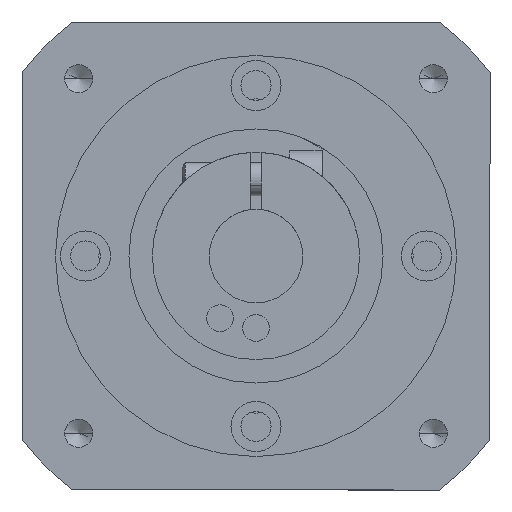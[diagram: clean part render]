
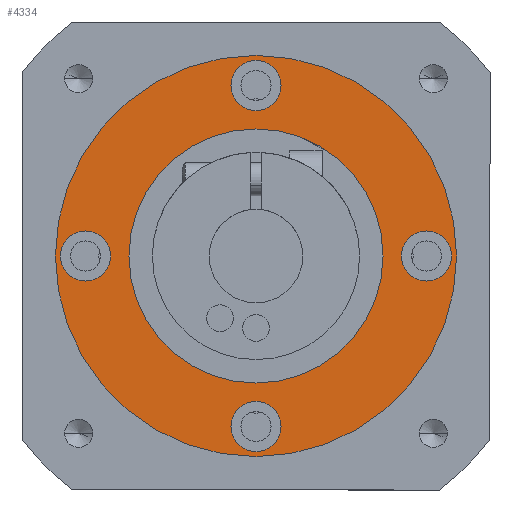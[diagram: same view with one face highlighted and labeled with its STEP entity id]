
A CAD part, front view. The second image highlights one B-rep face of the part: STEP entity #4334.
In plain terms, the highlighted planar face has unit normal (0, -1, 0) as drawn and (0, 0, -1) by its records, which use the part's own axes.
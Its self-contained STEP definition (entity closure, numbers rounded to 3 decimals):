
#34 = EDGE_LOOP ( 'NONE', ( #7748, #3338 ) ) ;
#52 = FACE_BOUND ( 'NONE', #3673, .T. ) ;
#55 = AXIS2_PLACEMENT_3D ( 'NONE', #1507, #6642, #2258 ) ;
#56 = CARTESIAN_POINT ( 'NONE',  ( -25.5, 0., -17.5 ) ) ;
#64 = EDGE_LOOP ( 'NONE', ( #5321, #6367 ) ) ;
#161 = DIRECTION ( 'NONE',  ( 0., 0., -1. ) ) ;
#277 = FACE_BOUND ( 'NONE', #34, .T. ) ;
#355 = DIRECTION ( 'NONE',  ( -1., 0., 0. ) ) ;
#532 = VERTEX_POINT ( 'NONE', #8926 ) ;
#621 = DIRECTION ( 'NONE',  ( 0., 0., -1. ) ) ;
#796 = DIRECTION ( 'NONE',  ( -1., 0., 0. ) ) ;
#852 = CIRCLE ( 'NONE', #7434, 30. ) ;
#923 = DIRECTION ( 'NONE',  ( 0., 0., 1. ) ) ;
#952 = ORIENTED_EDGE ( 'NONE', *, *, #9215, .F. ) ;
#1064 = VERTEX_POINT ( 'NONE', #7341 ) ;
#1079 = EDGE_CURVE ( 'NONE', #1764, #5633, #7146, .T. ) ;
#1142 = DIRECTION ( 'NONE',  ( 0., 0., -1. ) ) ;
#1221 = EDGE_LOOP ( 'NONE', ( #5330, #952 ) ) ;
#1262 = EDGE_CURVE ( 'NONE', #8411, #7971, #4079, .T. ) ;
#1378 = VERTEX_POINT ( 'NONE', #8622 ) ;
#1406 = CIRCLE ( 'NONE', #4260, 19. ) ;
#1507 = CARTESIAN_POINT ( 'NONE',  ( 0., 0., -17.5 ) ) ;
#1545 = PLANE ( 'NONE',  #5762 ) ;
#1602 = CARTESIAN_POINT ( 'NONE',  ( -19., 0., -17.5 ) ) ;
#1603 = AXIS2_PLACEMENT_3D ( 'NONE', #1640, #6765, #2397 ) ;
#1629 = EDGE_CURVE ( 'NONE', #1064, #532, #4974, .T. ) ;
#1640 = CARTESIAN_POINT ( 'NONE',  ( 25.5, 0., -17.5 ) ) ;
#1727 = DIRECTION ( 'NONE',  ( 0., 0., -1. ) ) ;
#1728 = ORIENTED_EDGE ( 'NONE', *, *, #1079, .T. ) ;
#1764 = VERTEX_POINT ( 'NONE', #6365 ) ;
#1770 = ORIENTED_EDGE ( 'NONE', *, *, #1262, .F. ) ;
#2027 = FACE_BOUND ( 'NONE', #4783, .T. ) ;
#2058 = CIRCLE ( 'NONE', #55, 30. ) ;
#2072 = CARTESIAN_POINT ( 'NONE',  ( 0., 0., -17.5 ) ) ;
#2158 = EDGE_CURVE ( 'NONE', #5633, #1764, #1406, .T. ) ;
#2258 = DIRECTION ( 'NONE',  ( 1., 0., 0. ) ) ;
#2289 = AXIS2_PLACEMENT_3D ( 'NONE', #4596, #161, #5297 ) ;
#2397 = DIRECTION ( 'NONE',  ( -1., 0., 0. ) ) ;
#2500 = EDGE_CURVE ( 'NONE', #6069, #3545, #4305, .T. ) ;
#2644 = AXIS2_PLACEMENT_3D ( 'NONE', #9142, #4780, #355 ) ;
#2653 = CIRCLE ( 'NONE', #2289, 3.75 ) ;
#2822 = DIRECTION ( 'NONE',  ( 1., 0., 0. ) ) ;
#2831 = DIRECTION ( 'NONE',  ( 0., 0., 1. ) ) ;
#2987 = CIRCLE ( 'NONE', #1603, 3.75 ) ;
#3154 = CIRCLE ( 'NONE', #6066, 3.75 ) ;
#3338 = ORIENTED_EDGE ( 'NONE', *, *, #2500, .F. ) ;
#3545 = VERTEX_POINT ( 'NONE', #7576 ) ;
#3673 = EDGE_LOOP ( 'NONE', ( #1728, #7788 ) ) ;
#3717 = AXIS2_PLACEMENT_3D ( 'NONE', #6118, #1727, #6854 ) ;
#3793 = DIRECTION ( 'NONE',  ( -1., 0., 0. ) ) ;
#4000 = FACE_BOUND ( 'NONE', #8388, .T. ) ;
#4079 = CIRCLE ( 'NONE', #4318, 3.75 ) ;
#4260 = AXIS2_PLACEMENT_3D ( 'NONE', #2072, #7178, #2822 ) ;
#4269 = DIRECTION ( 'NONE',  ( 0., 0., -1. ) ) ;
#4305 = CIRCLE ( 'NONE', #9433, 3.75 ) ;
#4318 = AXIS2_PLACEMENT_3D ( 'NONE', #5543, #1142, #6289 ) ;
#4334 = ADVANCED_FACE ( 'NONE', ( #277, #2027, #5918, #4000, #52, #7623 ), #1545, .T. ) ;
#4373 = CIRCLE ( 'NONE', #3717, 3.75 ) ;
#4586 = CARTESIAN_POINT ( 'NONE',  ( -3.75, 25.5, -17.5 ) ) ;
#4596 = CARTESIAN_POINT ( 'NONE',  ( 0., 25.5, -17.5 ) ) ;
#4607 = EDGE_CURVE ( 'NONE', #1378, #8631, #3154, .T. ) ;
#4780 = DIRECTION ( 'NONE',  ( 0., 0., -1. ) ) ;
#4783 = EDGE_LOOP ( 'NONE', ( #9066, #8276 ) ) ;
#4970 = AXIS2_PLACEMENT_3D ( 'NONE', #5324, #923, #6072 ) ;
#4974 = CIRCLE ( 'NONE', #2644, 3.75 ) ;
#5028 = CARTESIAN_POINT ( 'NONE',  ( 0., -25.5, -17.5 ) ) ;
#5198 = DIRECTION ( 'NONE',  ( 0., 0., -1. ) ) ;
#5297 = DIRECTION ( 'NONE',  ( -1., 0., 0. ) ) ;
#5321 = ORIENTED_EDGE ( 'NONE', *, *, #1629, .F. ) ;
#5324 = CARTESIAN_POINT ( 'NONE',  ( 0., 0., -17.5 ) ) ;
#5330 = ORIENTED_EDGE ( 'NONE', *, *, #7335, .F. ) ;
#5363 = CIRCLE ( 'NONE', #7058, 3.75 ) ;
#5448 = CARTESIAN_POINT ( 'NONE',  ( 3.75, 25.5, -17.5 ) ) ;
#5543 = CARTESIAN_POINT ( 'NONE',  ( 0., 25.5, -17.5 ) ) ;
#5633 = VERTEX_POINT ( 'NONE', #1602 ) ;
#5754 = DIRECTION ( 'NONE',  ( -1., 0., 0. ) ) ;
#5762 = AXIS2_PLACEMENT_3D ( 'NONE', #7377, #8143, #3793 ) ;
#5918 = FACE_BOUND ( 'NONE', #64, .T. ) ;
#6066 = AXIS2_PLACEMENT_3D ( 'NONE', #5028, #621, #5754 ) ;
#6069 = VERTEX_POINT ( 'NONE', #6248 ) ;
#6070 = VERTEX_POINT ( 'NONE', #6991 ) ;
#6072 = DIRECTION ( 'NONE',  ( 1., 0., 0. ) ) ;
#6118 = CARTESIAN_POINT ( 'NONE',  ( 0., -25.5, -17.5 ) ) ;
#6235 = CARTESIAN_POINT ( 'NONE',  ( -3.75, -25.5, -17.5 ) ) ;
#6248 = CARTESIAN_POINT ( 'NONE',  ( -21.75, 0., -17.5 ) ) ;
#6289 = DIRECTION ( 'NONE',  ( -1., 0., 0. ) ) ;
#6365 = CARTESIAN_POINT ( 'NONE',  ( 19., 0., -17.5 ) ) ;
#6367 = ORIENTED_EDGE ( 'NONE', *, *, #8414, .F. ) ;
#6526 = EDGE_CURVE ( 'NONE', #7971, #8411, #2653, .T. ) ;
#6642 = DIRECTION ( 'NONE',  ( 0., 0., 1. ) ) ;
#6765 = DIRECTION ( 'NONE',  ( 0., 0., -1. ) ) ;
#6854 = DIRECTION ( 'NONE',  ( -1., 0., 0. ) ) ;
#6991 = CARTESIAN_POINT ( 'NONE',  ( -30., 0., -17.5 ) ) ;
#7058 = AXIS2_PLACEMENT_3D ( 'NONE', #56, #5198, #796 ) ;
#7146 = CIRCLE ( 'NONE', #4970, 19. ) ;
#7178 = DIRECTION ( 'NONE',  ( 0., 0., 1. ) ) ;
#7196 = CARTESIAN_POINT ( 'NONE',  ( 0., 0., -17.5 ) ) ;
#7335 = EDGE_CURVE ( 'NONE', #9316, #6070, #2058, .T. ) ;
#7341 = CARTESIAN_POINT ( 'NONE',  ( 21.75, 0., -17.5 ) ) ;
#7377 = CARTESIAN_POINT ( 'NONE',  ( 0., -19., -17.5 ) ) ;
#7434 = AXIS2_PLACEMENT_3D ( 'NONE', #7196, #2831, #7919 ) ;
#7483 = EDGE_CURVE ( 'NONE', #8631, #1378, #4373, .T. ) ;
#7576 = CARTESIAN_POINT ( 'NONE',  ( -29.25, 0., -17.5 ) ) ;
#7623 = FACE_OUTER_BOUND ( 'NONE', #1221, .T. ) ;
#7748 = ORIENTED_EDGE ( 'NONE', *, *, #8344, .F. ) ;
#7788 = ORIENTED_EDGE ( 'NONE', *, *, #2158, .T. ) ;
#7919 = DIRECTION ( 'NONE',  ( 1., 0., 0. ) ) ;
#7971 = VERTEX_POINT ( 'NONE', #5448 ) ;
#8143 = DIRECTION ( 'NONE',  ( 0., 0., -1. ) ) ;
#8276 = ORIENTED_EDGE ( 'NONE', *, *, #4607, .F. ) ;
#8344 = EDGE_CURVE ( 'NONE', #3545, #6069, #5363, .T. ) ;
#8388 = EDGE_LOOP ( 'NONE', ( #1770, #8732 ) ) ;
#8411 = VERTEX_POINT ( 'NONE', #4586 ) ;
#8414 = EDGE_CURVE ( 'NONE', #532, #1064, #2987, .T. ) ;
#8616 = CARTESIAN_POINT ( 'NONE',  ( -25.5, 0., -17.5 ) ) ;
#8622 = CARTESIAN_POINT ( 'NONE',  ( 3.75, -25.5, -17.5 ) ) ;
#8631 = VERTEX_POINT ( 'NONE', #6235 ) ;
#8731 = CARTESIAN_POINT ( 'NONE',  ( 30., 0., -17.5 ) ) ;
#8732 = ORIENTED_EDGE ( 'NONE', *, *, #6526, .F. ) ;
#8926 = CARTESIAN_POINT ( 'NONE',  ( 29.25, 0., -17.5 ) ) ;
#9066 = ORIENTED_EDGE ( 'NONE', *, *, #7483, .F. ) ;
#9142 = CARTESIAN_POINT ( 'NONE',  ( 25.5, 0., -17.5 ) ) ;
#9215 = EDGE_CURVE ( 'NONE', #6070, #9316, #852, .T. ) ;
#9316 = VERTEX_POINT ( 'NONE', #8731 ) ;
#9346 = DIRECTION ( 'NONE',  ( -1., 0., 0. ) ) ;
#9433 = AXIS2_PLACEMENT_3D ( 'NONE', #8616, #4269, #9346 ) ;
